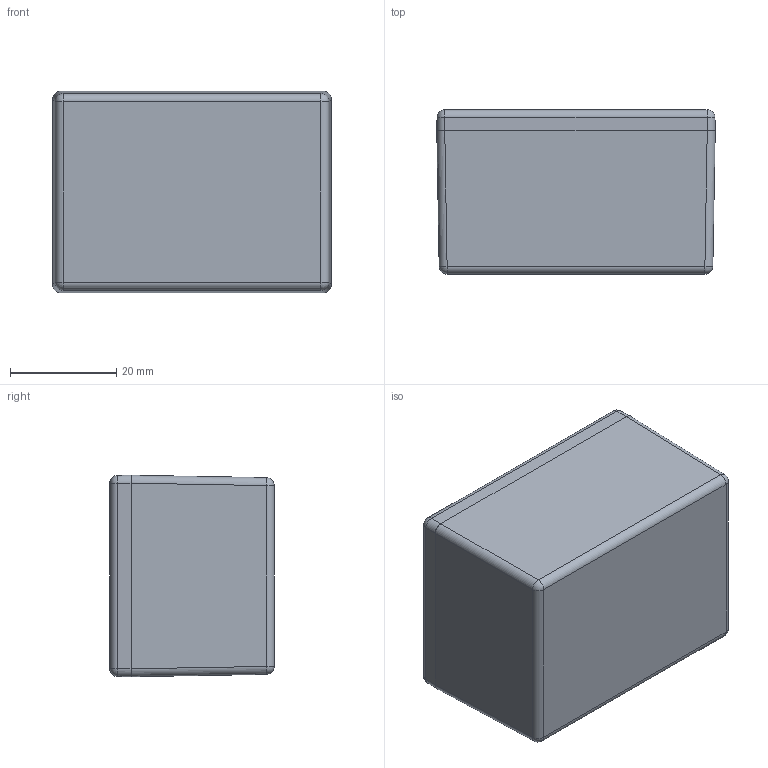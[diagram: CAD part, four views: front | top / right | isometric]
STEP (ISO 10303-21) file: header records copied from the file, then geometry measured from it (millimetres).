
FILE_DESCRIPTION(/* description */ (''),/* implementation_level */ '2;1');
FILE_NAME(/* name */ 'E:\Eng\Customer Service\Drawings\1590\STEP\1590H\1590H.iam.stp',/* time_stamp */ '2014-07-28T13:48:22-04:00',/* author */ ('L.Walsh'),/* organization */ (''),/* preprocessor_version */ 'ST-DEVELOPER v15.2',/* originating_system */ 'Autodesk Inventor 2014',/* authorisation */ '');
FILE_SCHEMA (('AUTOMOTIVE_DESIGN { 1 0 10303 214 3 1 1 }'));
Products named in the file (4): 1590H Box; 1590H Lid; #6406; 1590H
Bounding box: 52.5 x 31 x 38 mm (x, y, z)
Volume: 19717.5 mm3; surface area: 19049 mm2
Topology: 6 solids, 6 shells, 283 faces, 732 edges, 440 vertices
Faces by surface type: plane 139, cylinder 60, cone 52, sphere 16, torus 8, bspline 8
Full cylindrical faces by diameter (mm): 2.642 x4, 3.378 x4, 4 x4
Entity records: 6410 total; most frequent: CARTESIAN_POINT 1506, DIRECTION 1034, ORIENTED_EDGE 974, EDGE_CURVE 487, AXIS2_PLACEMENT_3D 381, VERTEX_POINT 299, LINE 272, VECTOR 272
